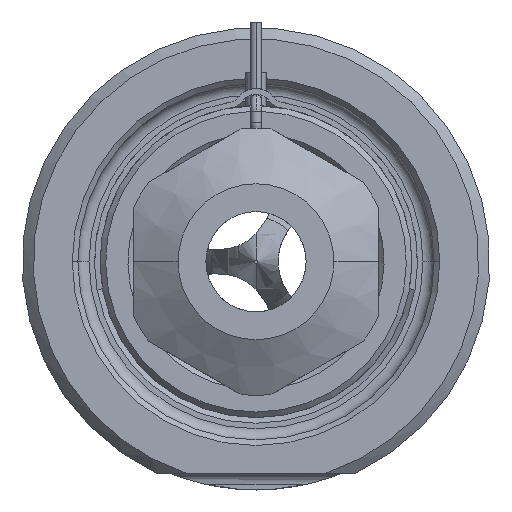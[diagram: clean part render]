
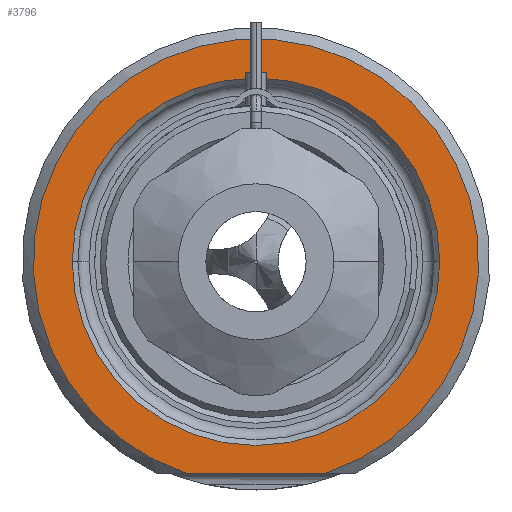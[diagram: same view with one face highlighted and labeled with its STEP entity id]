
A CAD part, front view. The second image highlights one B-rep face of the part: STEP entity #3796.
In plain terms, the highlighted planar face has unit normal (0, -1, 0).
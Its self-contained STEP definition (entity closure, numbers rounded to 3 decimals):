
#1=DIRECTION('',(1.,0.,0.));
#2=VECTOR('',#1,12.49);
#3=CARTESIAN_POINT('',(-6.245,0.,-19.));
#4=LINE('',#3,#2);
#5=CARTESIAN_POINT('',(0.,0.,0.));
#6=DIRECTION('',(0.,1.,0.));
#7=DIRECTION('',(-1.,0.,0.));
#8=AXIS2_PLACEMENT_3D('',#5,#6,#7);
#10=CARTESIAN_POINT('',(0.,0.,0.));
#11=DIRECTION('',(0.,1.,0.));
#12=DIRECTION('',(1.,0.,0.));
#13=AXIS2_PLACEMENT_3D('',#10,#11,#12);
#119=CARTESIAN_POINT('',(0.,0.,0.));
#120=DIRECTION('',(0.,-1.,0.));
#121=DIRECTION('',(0.312,0.,-0.95));
#122=AXIS2_PLACEMENT_3D('',#119,#120,#121);
#3187=CARTESIAN_POINT('',(-16.5,0.,0.));
#3188=CARTESIAN_POINT('',(16.5,0.,0.));
#3189=VERTEX_POINT('',#3187);
#3190=VERTEX_POINT('',#3188);
#3241=CARTESIAN_POINT('',(-6.245,0.,-19.));
#3242=CARTESIAN_POINT('',(6.245,0.,-19.));
#3243=VERTEX_POINT('',#3241);
#3244=VERTEX_POINT('',#3242);
#3779=CARTESIAN_POINT('',(0.,0.,0.));
#3780=DIRECTION('',(0.,-1.,0.));
#3781=DIRECTION('',(1.,0.,0.));
#3782=AXIS2_PLACEMENT_3D('',#3779,#3780,#3781);
#3783=PLANE('',#3782);
#3785=ORIENTED_EDGE('',*,*,#3784,.F.);
#3787=ORIENTED_EDGE('',*,*,#3786,.F.);
#3788=EDGE_LOOP('',(#3785,#3787));
#3789=FACE_OUTER_BOUND('',#3788,.F.);
#3791=ORIENTED_EDGE('',*,*,#3790,.F.);
#3793=ORIENTED_EDGE('',*,*,#3792,.F.);
#3794=EDGE_LOOP('',(#3791,#3793));
#3795=FACE_BOUND('',#3794,.F.);
#3796=ADVANCED_FACE('',(#3789,#3795),#3783,.T.);
#9=CIRCLE('',#8,16.5);
#14=CIRCLE('',#13,16.5);
#123=CIRCLE('',#122,20.);
#3784=EDGE_CURVE('',#3243,#3244,#4,.T.);
#3786=EDGE_CURVE('',#3244,#3243,#123,.T.);
#3790=EDGE_CURVE('',#3189,#3190,#9,.T.);
#3792=EDGE_CURVE('',#3190,#3189,#14,.T.);
